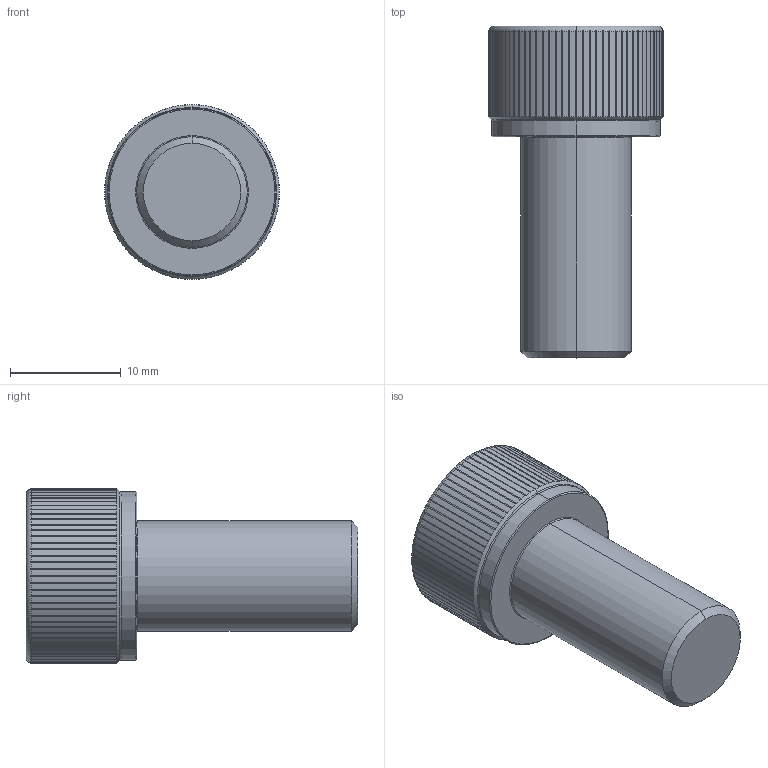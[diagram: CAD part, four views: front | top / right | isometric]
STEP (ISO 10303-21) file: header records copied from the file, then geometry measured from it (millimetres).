
FILE_DESCRIPTION (( 'STEP AP203' ), '1' );
FILE_NAME ('LGDT-304-M10x20.STEP', '2026-08-10T07:14:16', ( '' ), ( '' ), 'SwSTEP 2.0', 'SolidWorks 2020', '' );
FILE_SCHEMA (( 'CONFIG_CONTROL_DESIGN' ));
Length unit declared in the file: millimetre
Products named in the file (1): LGDT-304-M10x20
Bounding box: 15.8 x 30 x 15.8 mm (x, y, z)
Volume: 3165.9 mm3; surface area: 1645.4 mm2
Topology: 1 solids, 1 shells, 204 faces, 576 edges, 376 vertices
Faces by surface type: cylinder 175, cone 11, plane 10, torus 8
Entity records: 8367 total; most frequent: CARTESIAN_POINT 3208, ORIENTED_EDGE 1152, DIRECTION 988, EDGE_CURVE 576, AXIS2_PLACEMENT_3D 398, VERTEX_POINT 376, EDGE_LOOP 206, ADVANCED_FACE 204
